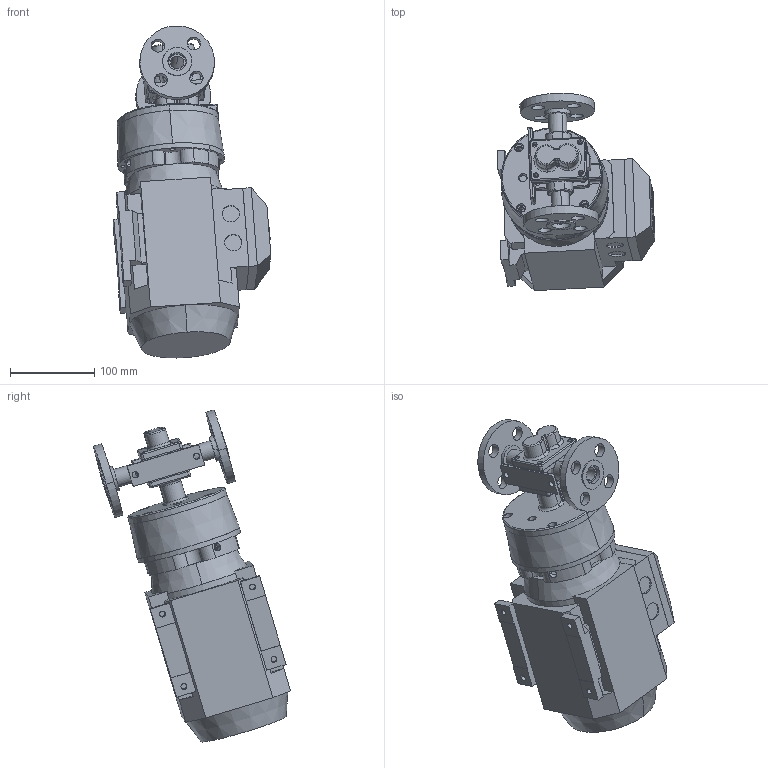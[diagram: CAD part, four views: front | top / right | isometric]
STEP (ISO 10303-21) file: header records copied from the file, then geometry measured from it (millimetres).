
FILE_DESCRIPTION (( 'STEP AP214' ), '1' );
FILE_NAME ('GMC2 FLGD IEC71 MOTOR.STEP', '2025-08-28T14:44:35', ( '' ), ( '' ), 'SwSTEP 2.0', 'SolidWorks 2024', '' );
FILE_SCHEMA (( 'AUTOMOTIVE_DESIGN' ));
Length unit declared in the file: inch
Products named in the file (1): GMC2 FLGD IEC71 MOTOR
Bounding box: 187.57 x 234.33 x 394.97 mm (x, y, z)
Volume: 3958535.4 mm3; surface area: 358562.9 mm2
Topology: 10 solids, 10 shells, 845 faces, 2140 edges, 1351 vertices
Faces by surface type: cylinder 400, plane 290, cone 70, torus 47, bspline 24, sphere 14
Entity records: 27681 total; most frequent: CARTESIAN_POINT 6534, DIRECTION 4631, ORIENTED_EDGE 4220, EDGE_CURVE 2110, AXIS2_PLACEMENT_3D 1806, VERTEX_POINT 1351, EDGE_LOOP 1031, VECTOR 1019
